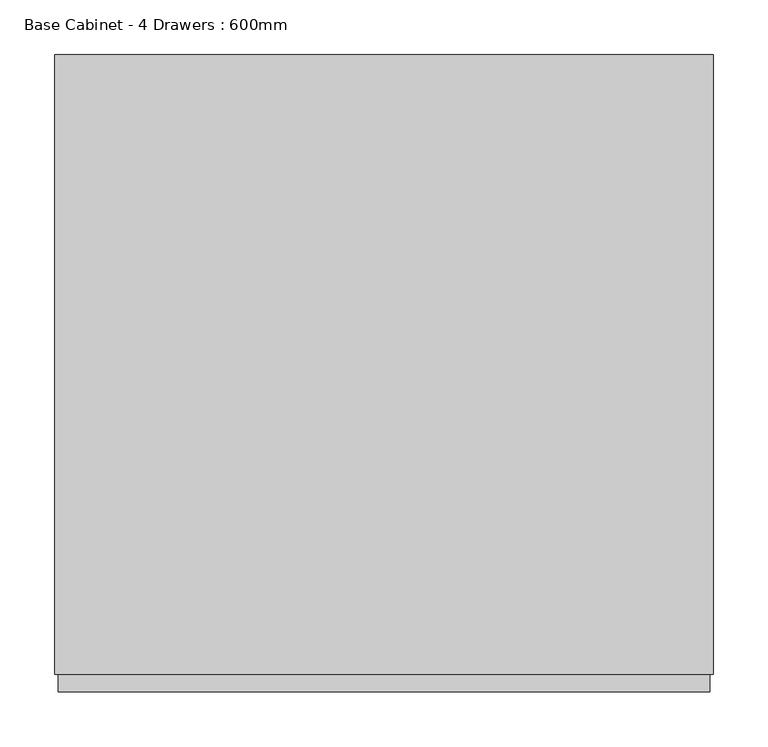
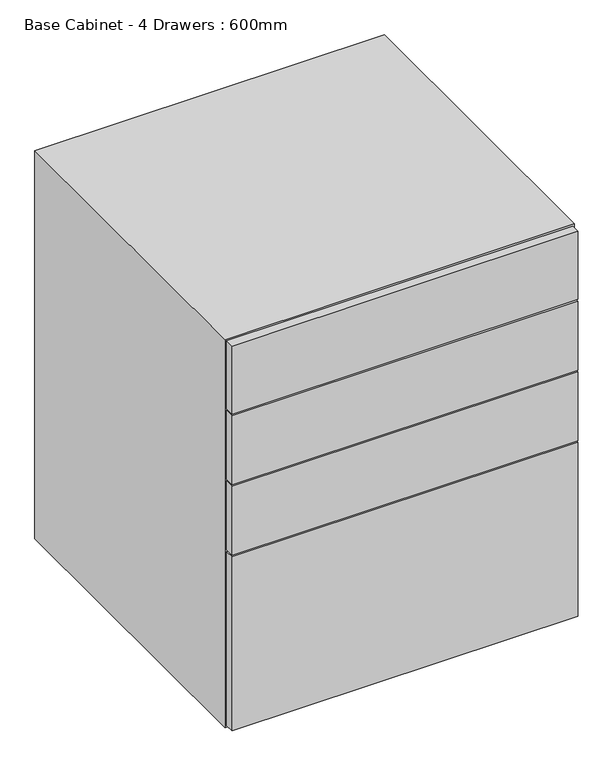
"""IFC4 building model written with IfcOpenShell, lengths in millimetres: furniture geometry, Base Cabinet - 4 Drawers : 600mm."""

from ifc_helpers import new_model, si_unit, frame, origin, place, context, project, spatial, polyline, outline, extrude, source, transform, mapped, element, save


def base_cabinet_4_drawers_600mm_2243f3cf(model_context):
    return source(origin(), model_context, "Body", "SweptSolid", [
        extrude(outline(polyline([(341.7003264, -581.0), (-252.2996736, -581.0), (-252.2996736, -565.0), (341.7003264, -565.0), (341.7003264, -581.0)])), frame((0.0, 0.0, 741.5), z_axis=(0.0, 0.0, 1.0), x_axis=(1.0, 0.0, 0.0)), (0.0, 0.0, 1.0), 123.5),
        extrude(outline(polyline([(341.7003264, -581.0), (-252.2996736, -581.0), (-252.2996736, -565.0), (341.7003264, -565.0), (341.7003264, -581.0)])), frame((0.0, 0.0, 167.0), z_axis=(0.0, 0.0, 1.0), x_axis=(1.0, 0.0, 0.0)), (0.0, 0.0, 1.0), 315.5),
        extrude(outline(polyline([(341.7003264, -581.0), (-252.2996736, -581.0), (-252.2996736, -565.0), (341.7003264, -565.0), (341.7003264, -581.0)])), frame((0.0, 0.0, 613.5), z_axis=(0.0, 0.0, 1.0), x_axis=(1.0, 0.0, 0.0)), (0.0, 0.0, 1.0), 125.0),
        extrude(outline(polyline([(341.7003264, -581.0), (-252.2996736, -581.0), (-252.2996736, -565.0), (341.7003264, -565.0), (341.7003264, -581.0)])), frame((0.0, 0.0, 485.5), z_axis=(0.0, 0.0, 1.0), x_axis=(1.0, 0.0, 0.0)), (0.0, 0.0, 1.0), 125.0),
        extrude(outline(polyline([(868.0, 344.7003264), (868.0, -255.2996736), (164.0, -255.2996736), (164.0, 344.7003264), (868.0, 344.7003264)]), holes=[polyline([(852.0, 328.7003264), (180.0, 328.7003264), (180.0, -239.2996736), (852.0, -239.2996736), (852.0, 328.7003264)])]), frame((0.0, -565.0, 0.0), z_axis=(0.0, 1.0, 0.0), x_axis=(0.0, 0.0, 1.0)), (0.0, 0.0, 1.0), 565.0),
        extrude(outline(polyline([(328.7003264, -10.0), (328.7003264, -16.0), (-239.2996736, -16.0), (-239.2996736, -10.0), (328.7003264, -10.0)])), frame((0.0, 0.0, 180.0), z_axis=(0.0, 0.0, 1.0), x_axis=(1.0, 0.0, 0.0)), (0.0, 0.0, 1.0), 672.0),
    ])


if __name__ == "__main__":
    model = new_model("IFC4")
    model_context = context("Model", 3, world=origin())
    ifc_project = project(units=[si_unit("LENGTHUNIT", "METRE", prefix="MILLI")], contexts=[model_context])
    site = spatial("IfcSite", under=ifc_project)
    building = spatial("IfcBuilding", under=site)
    placement = place(None, origin())
    base_cabinet_4_drawers_600mm_shape = base_cabinet_4_drawers_600mm_2243f3cf(model_context)
    element("IfcFurniture", 1, ObjectType="Base Cabinet - 4 Drawers : 600mm", at=placement, inside=building, context=model_context, shape_type="MappedRepresentation", body=[
        mapped(base_cabinet_4_drawers_600mm_shape, transform((0.0, 0.0, 0.0), x_axis=(1.0, 0.0, 0.0), y_axis=(0.0, 1.0, 0.0), z_axis=(0.0, 0.0, 1.0))),
    ])
    save(model, "model.ifc")
